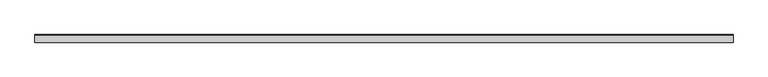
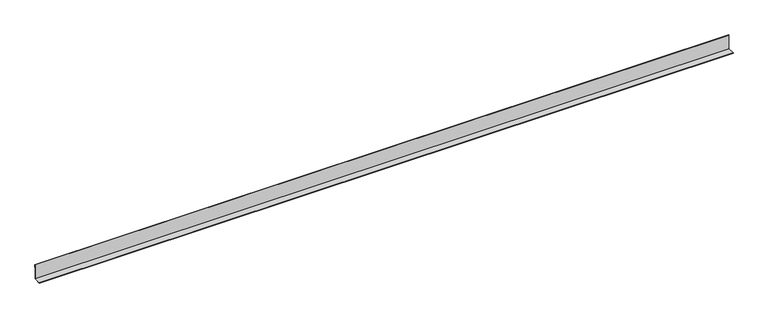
"""IFC4 building model written with IfcOpenShell, lengths in millimetres: proxy geometry, АК3_1 Обрамление внутреннего угла : АК3_1 Обрамление внутреннего угла."""

from ifc_helpers import new_model, si_unit, frame, origin, place, context, project, spatial, polyline, outline, extrude, source, transform, mapped, element, save


def generic_models_e5b9f5c1(model_context):
    return source(origin(), model_context, "Body", "SweptSolid", [
        extrude(outline(polyline([(-65.0, 5.0), (-5.0, 5.0), (-5.0, 125.0), (-2.0, 125.0), (-2.0, 105.0), (-3.0, 105.0), (-3.0, 124.0), (-4.0, 124.0), (-4.0, 4.0), (-64.0, 4.0), (-64.0, 3.0), (-45.0, 3.0), (-45.0, 2.0), (-65.0, 2.0), (-65.0, 5.0)])), frame((0.0, 0.0, 0.0), z_axis=(1.0, 0.0, 0.0), x_axis=(0.0, 1.0, 0.0)), (0.0, 0.0, 1.0), 5755.0),
    ])


if __name__ == "__main__":
    model = new_model("IFC4")
    model_context = context("Model", 3, world=origin())
    ifc_project = project(units=[si_unit("LENGTHUNIT", "METRE", prefix="MILLI")], contexts=[model_context])
    site = spatial("IfcSite", under=ifc_project)
    building = spatial("IfcBuilding", under=site)
    placement = place(None, origin())
    generic_models_shape = generic_models_e5b9f5c1(model_context)
    element("IfcBuildingElementProxy", 1, Name="АК3_1 Обрамление внутреннего угла : АК3_1 Обрамление внутреннего угла", ObjectType="АК3_1 Обрамление внутреннего угла : АК3_1 Обрамление внутреннего угла", at=placement, inside=building, context=model_context, shape_type="MappedRepresentation", body=[
        mapped(generic_models_shape, transform((0.0, 0.0, 0.0), x_axis=(1.0, 0.0, 0.0), y_axis=(0.0, 1.0, 0.0), z_axis=(0.0, 0.0, 1.0))),
    ])
    save(model, "model.ifc")
